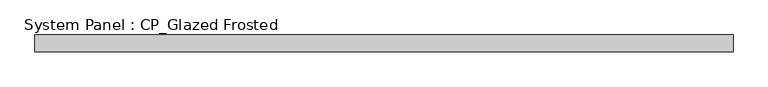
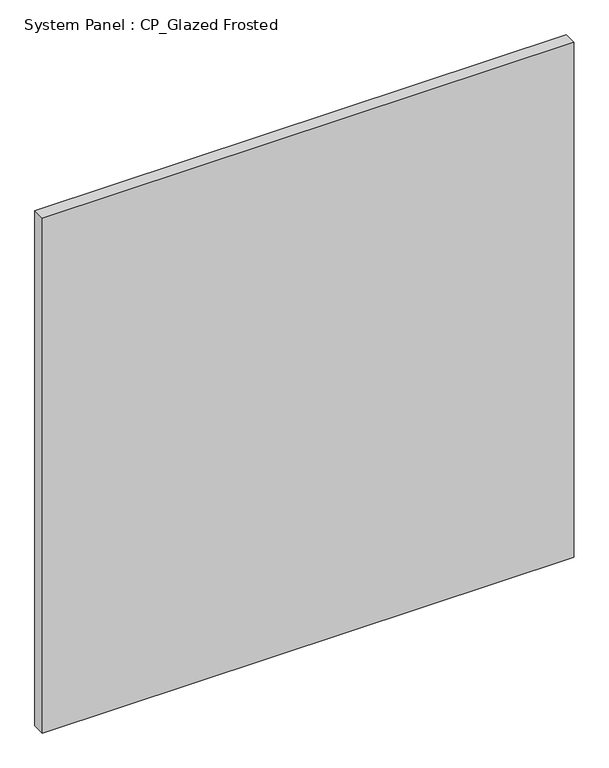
"""IFC4 building model written with IfcOpenShell, lengths in millimetres: plate geometry, System Panel : CP_Glazed Frosted."""

from ifc_helpers import new_model, si_unit, origin, origin_with_axes, place, context, project, spatial, polyline, outline, extrude, source, transform, mapped, element, save


def system_panel_cp_glazed_frosted_42447035(model_context):
    return source(origin(), model_context, "Body", "SweptSolid", [
        extrude(outline(polyline([(523.875, 19.05), (-523.875, 19.05), (-523.875, 44.45), (523.875, 44.45), (523.875, 19.05)])), origin_with_axes(), (0.0, 0.0, 1.0), 1073.15),
    ])


if __name__ == "__main__":
    model = new_model("IFC4")
    model_context = context("Model", 3, world=origin())
    ifc_project = project(units=[si_unit("LENGTHUNIT", "METRE", prefix="MILLI")], contexts=[model_context])
    site = spatial("IfcSite", under=ifc_project)
    building = spatial("IfcBuilding", under=site)
    placement = place(None, origin())
    system_panel_cp_glazed_frosted_shape = system_panel_cp_glazed_frosted_42447035(model_context)
    element("IfcPlate", 1, ObjectType="System Panel : CP_Glazed Frosted", at=placement, inside=building, context=model_context, shape_type="MappedRepresentation", body=[
        mapped(system_panel_cp_glazed_frosted_shape, transform((0.0, 0.0, 0.0), x_axis=(1.0, 0.0, 0.0), y_axis=(0.0, 1.0, 0.0), z_axis=(0.0, 0.0, 1.0))),
    ])
    save(model, "model.ifc")
